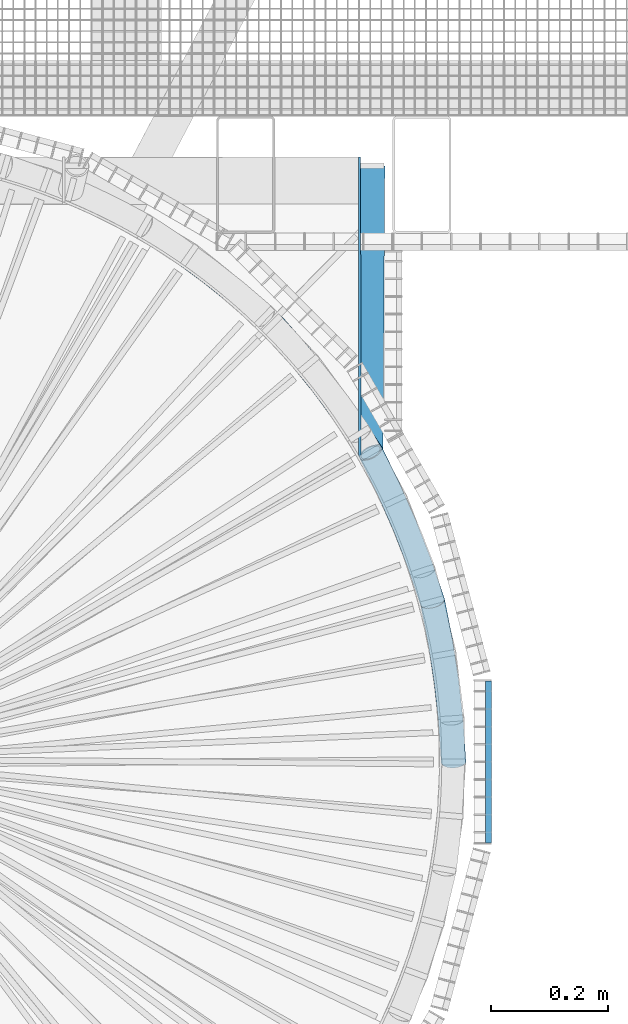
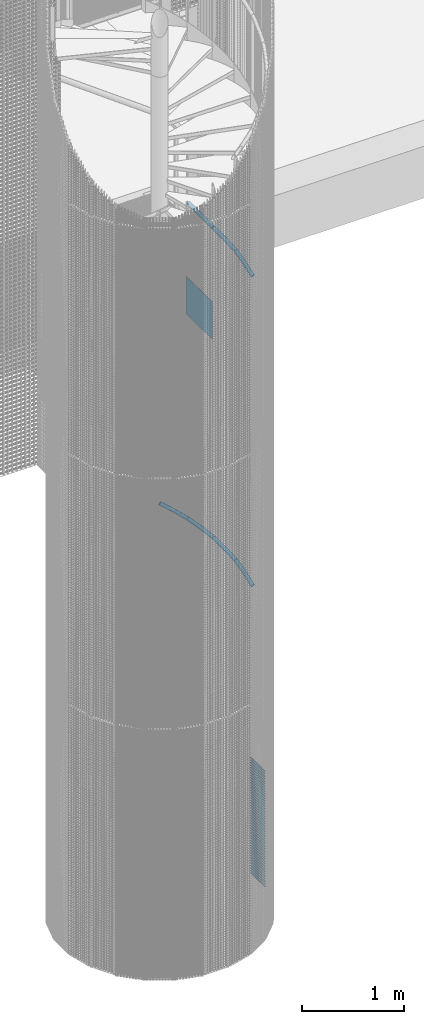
# One storey, part 301 of 1148: 49 beams, 6 members, 8 elements without a shape of their own.
"""IFC2X3 building model written with IfcOpenShell, lengths in millimetres."""

from ifc_helpers import new_model, entity, si_unit, frame, origin_with_axes, origin_2d_with_axis, place, context, subcontext, project, spatial, rectangle, hollow_circle, extrude, material, type_object, element, aggregate, save


model = new_model("IFC2X3")

# Units and contexts
model_context = context("Model", 3, precision=1e-05, world=origin_with_axes())
body_context = subcontext(model_context, "Body", "Model", "MODEL_VIEW")
ifc_project = project(units=[si_unit("LENGTHUNIT", "METRE", prefix="MILLI"), si_unit("AREAUNIT", "SQUARE_METRE"), si_unit("VOLUMEUNIT", "CUBIC_METRE"), si_unit("MASSUNIT", "GRAM", prefix="KILO"), si_unit("TIMEUNIT", "SECOND"), si_unit("PLANEANGLEUNIT", "RADIAN"), si_unit("SOLIDANGLEUNIT", "STERADIAN"), si_unit("THERMODYNAMICTEMPERATUREUNIT", "DEGREE_CELSIUS"), si_unit("LUMINOUSINTENSITYUNIT", "LUMEN")], contexts=[model_context])

# Site, building, storey
site_placement = place(None, origin_with_axes())
site = spatial("IfcSite", under=ifc_project, at=site_placement, Name="Undefined", CompositionType="ELEMENT")
building_placement = place(site_placement, origin_with_axes())
building = spatial("IfcBuilding", under=site, at=building_placement, Name="Undefined", CompositionType="ELEMENT")
storey_placement = place(building_placement, origin_with_axes())
storey = spatial("IfcBuildingStorey", under=building, at=storey_placement, Name="Undefined", CompositionType="ELEMENT", Elevation=0.0)

# Assembly, beams
assembly_1_placement = place(storey_placement, origin_with_axes())
assembly_1 = element("IfcElementAssembly", 1, at=assembly_1_placement, inside=storey, Name="BORDURE", AssemblyPlace="NOTDEFINED", PredefinedType="NOTDEFINED")
ifc_material = material(Name="STEEL/S235JR")
beam_type_1 = type_object("IfcBeamType", Name="PL2*10", PredefinedType="NOTDEFINED")
beam_1_placement = place(assembly_1_placement, frame((1113.47999999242, -137.996003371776, 1410.0), z_axis=(1.0, 0.0, 0.0), x_axis=(0.0, 1.0, 0.0)))
beam_1 = element("IfcBeam", 2, at=beam_1_placement, type_object=beam_type_1, material=ifc_material, Name="ENTRETOISE", context=body_context, shape_type="SweptSolid", body=[
    extrude(rectangle(XDim=2.0, YDim=10.0, at=origin_2d_with_axis()), frame((275.999999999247, 9.09494701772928e-13, 1.53210777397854e-14), z_axis=(-1.0, 0.0, 0.0), x_axis=(0.0, -1.0, 0.0)), (0.0, 0.0, 1.0), 276.0),
])
beam_2_placement = place(assembly_1_placement, frame((1113.47999999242, -137.996003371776, 1380.0), z_axis=(1.0, 0.0, 0.0), x_axis=(0.0, 1.0, 0.0)))
beam_2 = element("IfcBeam", 3, at=beam_2_placement, type_object=beam_type_1, material=ifc_material, Name="ENTRETOISE", context=body_context, shape_type="SweptSolid", body=[
    extrude(rectangle(XDim=2.0, YDim=10.0, at=origin_2d_with_axis()), frame((275.999999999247, 9.09494701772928e-13, 1.53210777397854e-14), z_axis=(-1.0, 0.0, 0.0), x_axis=(0.0, -1.0, 0.0)), (0.0, 0.0, 1.0), 276.0),
])
beam_3_placement = place(assembly_1_placement, frame((1113.47999999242, -137.996003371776, 1350.0), z_axis=(1.0, 0.0, 0.0), x_axis=(0.0, 1.0, 0.0)))
beam_3 = element("IfcBeam", 4, at=beam_3_placement, type_object=beam_type_1, material=ifc_material, Name="ENTRETOISE", context=body_context, shape_type="SweptSolid", body=[
    extrude(rectangle(XDim=2.0, YDim=10.0, at=origin_2d_with_axis()), frame((275.999999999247, 9.09494701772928e-13, 1.53210777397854e-14), z_axis=(-1.0, 0.0, 0.0), x_axis=(0.0, -1.0, 0.0)), (0.0, 0.0, 1.0), 276.0),
])
beam_4_placement = place(assembly_1_placement, frame((1113.47999999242, -137.996003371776, 1320.0), z_axis=(1.0, 0.0, 0.0), x_axis=(0.0, 1.0, 0.0)))
beam_4 = element("IfcBeam", 5, at=beam_4_placement, type_object=beam_type_1, material=ifc_material, Name="ENTRETOISE", context=body_context, shape_type="SweptSolid", body=[
    extrude(rectangle(XDim=2.0, YDim=10.0, at=origin_2d_with_axis()), frame((275.999999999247, 9.09494701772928e-13, 1.53210777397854e-14), z_axis=(-1.0, 0.0, 0.0), x_axis=(0.0, -1.0, 0.0)), (0.0, 0.0, 1.0), 276.0),
])
beam_5_placement = place(assembly_1_placement, frame((1113.47999999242, -137.996003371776, 1290.0), z_axis=(1.0, 0.0, 0.0), x_axis=(0.0, 1.0, 0.0)))
beam_5 = element("IfcBeam", 6, at=beam_5_placement, type_object=beam_type_1, material=ifc_material, Name="ENTRETOISE", context=body_context, shape_type="SweptSolid", body=[
    extrude(rectangle(XDim=2.0, YDim=10.0, at=origin_2d_with_axis()), frame((275.999999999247, 9.09494701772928e-13, 1.53210777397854e-14), z_axis=(-1.0, 0.0, 0.0), x_axis=(0.0, -1.0, 0.0)), (0.0, 0.0, 1.0), 276.0),
])
beam_6_placement = place(assembly_1_placement, frame((1113.47999999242, -137.996003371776, 1260.0), z_axis=(1.0, 0.0, 0.0), x_axis=(0.0, 1.0, 0.0)))
beam_6 = element("IfcBeam", 7, at=beam_6_placement, type_object=beam_type_1, material=ifc_material, Name="ENTRETOISE", context=body_context, shape_type="SweptSolid", body=[
    extrude(rectangle(XDim=2.0, YDim=10.0, at=origin_2d_with_axis()), frame((275.999999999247, 9.09494701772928e-13, 1.53210777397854e-14), z_axis=(-1.0, 0.0, 0.0), x_axis=(0.0, -1.0, 0.0)), (0.0, 0.0, 1.0), 276.0),
])
beam_7_placement = place(assembly_1_placement, frame((1113.47999999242, -137.996003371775, 1230.0), z_axis=(1.0, 0.0, 0.0), x_axis=(0.0, 1.0, 0.0)))
beam_7 = element("IfcBeam", 8, at=beam_7_placement, type_object=beam_type_1, material=ifc_material, Name="ENTRETOISE", context=body_context, shape_type="SweptSolid", body=[
    extrude(rectangle(XDim=2.0, YDim=10.0, at=origin_2d_with_axis()), frame((275.999999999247, 9.09494701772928e-13, 1.53210777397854e-14), z_axis=(-1.0, 0.0, 0.0), x_axis=(0.0, -1.0, 0.0)), (0.0, 0.0, 1.0), 276.0),
])
beam_8_placement = place(assembly_1_placement, frame((1113.47999999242, -137.996003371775, 1200.0), z_axis=(1.0, 0.0, 0.0), x_axis=(0.0, 1.0, 0.0)))
beam_8 = element("IfcBeam", 9, at=beam_8_placement, type_object=beam_type_1, material=ifc_material, Name="ENTRETOISE", context=body_context, shape_type="SweptSolid", body=[
    extrude(rectangle(XDim=2.0, YDim=10.0, at=origin_2d_with_axis()), frame((275.999999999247, 9.09494701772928e-13, 1.53210777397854e-14), z_axis=(-1.0, 0.0, 0.0), x_axis=(0.0, -1.0, 0.0)), (0.0, 0.0, 1.0), 276.0),
])
beam_9_placement = place(assembly_1_placement, frame((1113.47999999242, -137.996003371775, 1170.0), z_axis=(1.0, 0.0, 0.0), x_axis=(0.0, 1.0, 0.0)))
beam_9 = element("IfcBeam", 10, at=beam_9_placement, type_object=beam_type_1, material=ifc_material, Name="ENTRETOISE", context=body_context, shape_type="SweptSolid", body=[
    extrude(rectangle(XDim=2.0, YDim=10.0, at=origin_2d_with_axis()), frame((275.999999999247, 9.09494701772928e-13, 1.53210777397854e-14), z_axis=(-1.0, 0.0, 0.0), x_axis=(0.0, -1.0, 0.0)), (0.0, 0.0, 1.0), 276.0),
])
beam_10_placement = place(assembly_1_placement, frame((1113.47999999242, -137.996003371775, 1140.0), z_axis=(1.0, 0.0, 0.0), x_axis=(0.0, 1.0, 0.0)))
beam_10 = element("IfcBeam", 11, at=beam_10_placement, type_object=beam_type_1, material=ifc_material, Name="ENTRETOISE", context=body_context, shape_type="SweptSolid", body=[
    extrude(rectangle(XDim=2.0, YDim=10.0, at=origin_2d_with_axis()), frame((275.999999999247, 9.09494701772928e-13, 1.53210777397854e-14), z_axis=(-1.0, 0.0, 0.0), x_axis=(0.0, -1.0, 0.0)), (0.0, 0.0, 1.0), 276.0),
])
beam_11_placement = place(assembly_1_placement, frame((1113.47999999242, -137.996003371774, 719.999999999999), z_axis=(1.0, 0.0, 0.0), x_axis=(0.0, 1.0, 0.0)))
beam_11 = element("IfcBeam", 12, at=beam_11_placement, type_object=beam_type_1, material=ifc_material, Name="ENTRETOISE", context=body_context, shape_type="SweptSolid", body=[
    extrude(rectangle(XDim=2.0, YDim=10.0, at=origin_2d_with_axis()), frame((275.999999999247, 9.09494701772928e-13, 1.53210777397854e-14), z_axis=(-1.0, 0.0, 0.0), x_axis=(0.0, -1.0, 0.0)), (0.0, 0.0, 1.0), 276.0),
])
beam_12_placement = place(assembly_1_placement, frame((1113.47999999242, -137.996003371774, 689.999999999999), z_axis=(1.0, 0.0, 0.0), x_axis=(0.0, 1.0, 0.0)))
beam_12 = element("IfcBeam", 13, at=beam_12_placement, type_object=beam_type_1, material=ifc_material, Name="ENTRETOISE", context=body_context, shape_type="SweptSolid", body=[
    extrude(rectangle(XDim=2.0, YDim=10.0, at=origin_2d_with_axis()), frame((275.999999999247, 9.09494701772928e-13, 1.53210777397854e-14), z_axis=(-1.0, 0.0, 0.0), x_axis=(0.0, -1.0, 0.0)), (0.0, 0.0, 1.0), 276.0),
])
beam_13_placement = place(assembly_1_placement, frame((1113.47999999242, -137.996003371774, 749.999999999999), z_axis=(1.0, 0.0, 0.0), x_axis=(0.0, 1.0, 0.0)))
beam_13 = element("IfcBeam", 14, at=beam_13_placement, type_object=beam_type_1, material=ifc_material, Name="ENTRETOISE", context=body_context, shape_type="SweptSolid", body=[
    extrude(rectangle(XDim=2.0, YDim=10.0, at=origin_2d_with_axis()), frame((275.999999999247, 9.09494701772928e-13, 1.53210777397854e-14), z_axis=(-1.0, 0.0, 0.0), x_axis=(0.0, -1.0, 0.0)), (0.0, 0.0, 1.0), 276.0),
])
beam_14_placement = place(assembly_1_placement, frame((1113.47999999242, -137.996003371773, 659.999999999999), z_axis=(1.0, 0.0, 0.0), x_axis=(0.0, 1.0, 0.0)))
beam_14 = element("IfcBeam", 15, at=beam_14_placement, type_object=beam_type_1, material=ifc_material, Name="ENTRETOISE", context=body_context, shape_type="SweptSolid", body=[
    extrude(rectangle(XDim=2.0, YDim=10.0, at=origin_2d_with_axis()), frame((275.999999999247, 9.09494701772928e-13, 1.53210777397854e-14), z_axis=(-1.0, 0.0, 0.0), x_axis=(0.0, -1.0, 0.0)), (0.0, 0.0, 1.0), 276.0),
])
beam_15_placement = place(assembly_1_placement, frame((1113.47999999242, -137.996003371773, 629.999999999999), z_axis=(1.0, 0.0, 0.0), x_axis=(0.0, 1.0, 0.0)))
beam_15 = element("IfcBeam", 16, at=beam_15_placement, type_object=beam_type_1, material=ifc_material, Name="ENTRETOISE", context=body_context, shape_type="SweptSolid", body=[
    extrude(rectangle(XDim=2.0, YDim=10.0, at=origin_2d_with_axis()), frame((275.999999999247, 9.09494701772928e-13, 1.53210777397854e-14), z_axis=(-1.0, 0.0, 0.0), x_axis=(0.0, -1.0, 0.0)), (0.0, 0.0, 1.0), 276.0),
])
beam_16_placement = place(assembly_1_placement, frame((1113.47999999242, -137.996003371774, 779.999999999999), z_axis=(1.0, 0.0, 0.0), x_axis=(0.0, 1.0, 0.0)))
beam_16 = element("IfcBeam", 17, at=beam_16_placement, type_object=beam_type_1, material=ifc_material, Name="ENTRETOISE", context=body_context, shape_type="SweptSolid", body=[
    extrude(rectangle(XDim=2.0, YDim=10.0, at=origin_2d_with_axis()), frame((275.999999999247, 9.09494701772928e-13, 1.53210777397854e-14), z_axis=(-1.0, 0.0, 0.0), x_axis=(0.0, -1.0, 0.0)), (0.0, 0.0, 1.0), 276.0),
])
beam_17_placement = place(assembly_1_placement, frame((1113.47999999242, -137.996003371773, 599.999999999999), z_axis=(1.0, 0.0, 0.0), x_axis=(0.0, 1.0, 0.0)))
beam_17 = element("IfcBeam", 18, at=beam_17_placement, type_object=beam_type_1, material=ifc_material, Name="ENTRETOISE", context=body_context, shape_type="SweptSolid", body=[
    extrude(rectangle(XDim=2.0, YDim=10.0, at=origin_2d_with_axis()), frame((275.999999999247, 9.09494701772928e-13, 1.53210777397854e-14), z_axis=(-1.0, 0.0, 0.0), x_axis=(0.0, -1.0, 0.0)), (0.0, 0.0, 1.0), 276.0),
])
beam_18_placement = place(assembly_1_placement, frame((1113.47999999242, -137.996003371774, 809.999999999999), z_axis=(1.0, 0.0, 0.0), x_axis=(0.0, 1.0, 0.0)))
beam_18 = element("IfcBeam", 19, at=beam_18_placement, type_object=beam_type_1, material=ifc_material, Name="ENTRETOISE", context=body_context, shape_type="SweptSolid", body=[
    extrude(rectangle(XDim=2.0, YDim=10.0, at=origin_2d_with_axis()), frame((275.999999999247, 9.09494701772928e-13, 1.53210777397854e-14), z_axis=(-1.0, 0.0, 0.0), x_axis=(0.0, -1.0, 0.0)), (0.0, 0.0, 1.0), 276.0),
])
beam_19_placement = place(assembly_1_placement, frame((1113.47999999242, -137.996003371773, 569.999999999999), z_axis=(1.0, 0.0, 0.0), x_axis=(0.0, 1.0, 0.0)))
beam_19 = element("IfcBeam", 20, at=beam_19_placement, type_object=beam_type_1, material=ifc_material, Name="ENTRETOISE", context=body_context, shape_type="SweptSolid", body=[
    extrude(rectangle(XDim=2.0, YDim=10.0, at=origin_2d_with_axis()), frame((275.999999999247, 9.09494701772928e-13, 1.53210777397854e-14), z_axis=(-1.0, 0.0, 0.0), x_axis=(0.0, -1.0, 0.0)), (0.0, 0.0, 1.0), 276.0),
])
beam_20_placement = place(assembly_1_placement, frame((1113.47999999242, -137.996003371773, 539.999999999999), z_axis=(1.0, 0.0, 0.0), x_axis=(0.0, 1.0, 0.0)))
beam_20 = element("IfcBeam", 21, at=beam_20_placement, type_object=beam_type_1, material=ifc_material, Name="ENTRETOISE", context=body_context, shape_type="SweptSolid", body=[
    extrude(rectangle(XDim=2.0, YDim=10.0, at=origin_2d_with_axis()), frame((275.999999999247, 9.09494701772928e-13, 1.53210777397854e-14), z_axis=(-1.0, 0.0, 0.0), x_axis=(0.0, -1.0, 0.0)), (0.0, 0.0, 1.0), 276.0),
])
beam_21_placement = place(assembly_1_placement, frame((1113.47999999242, -137.996003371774, 839.999999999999), z_axis=(1.0, 0.0, 0.0), x_axis=(0.0, 1.0, 0.0)))
beam_21 = element("IfcBeam", 22, at=beam_21_placement, type_object=beam_type_1, material=ifc_material, Name="ENTRETOISE", context=body_context, shape_type="SweptSolid", body=[
    extrude(rectangle(XDim=2.0, YDim=10.0, at=origin_2d_with_axis()), frame((275.999999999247, 9.09494701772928e-13, 1.53210777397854e-14), z_axis=(-1.0, 0.0, 0.0), x_axis=(0.0, -1.0, 0.0)), (0.0, 0.0, 1.0), 276.0),
])
beam_22_placement = place(assembly_1_placement, frame((1113.47999999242, -137.996003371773, 509.999999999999), z_axis=(1.0, 0.0, 0.0), x_axis=(0.0, 1.0, 0.0)))
beam_22 = element("IfcBeam", 23, at=beam_22_placement, type_object=beam_type_1, material=ifc_material, Name="ENTRETOISE", context=body_context, shape_type="SweptSolid", body=[
    extrude(rectangle(XDim=2.0, YDim=10.0, at=origin_2d_with_axis()), frame((275.999999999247, 9.09494701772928e-13, 1.53210777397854e-14), z_axis=(-1.0, 0.0, 0.0), x_axis=(0.0, -1.0, 0.0)), (0.0, 0.0, 1.0), 276.0),
])
beam_23_placement = place(assembly_1_placement, frame((1113.47999999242, -137.996003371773, 479.999999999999), z_axis=(1.0, 0.0, 0.0), x_axis=(0.0, 1.0, 0.0)))
beam_23 = element("IfcBeam", 24, at=beam_23_placement, type_object=beam_type_1, material=ifc_material, Name="ENTRETOISE", context=body_context, shape_type="SweptSolid", body=[
    extrude(rectangle(XDim=2.0, YDim=10.0, at=origin_2d_with_axis()), frame((275.999999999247, 9.09494701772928e-13, 1.53210777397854e-14), z_axis=(-1.0, 0.0, 0.0), x_axis=(0.0, -1.0, 0.0)), (0.0, 0.0, 1.0), 276.0),
])
beam_24_placement = place(assembly_1_placement, frame((1113.47999999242, -137.996003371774, 869.999999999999), z_axis=(1.0, 0.0, 0.0), x_axis=(0.0, 1.0, 0.0)))
beam_24 = element("IfcBeam", 25, at=beam_24_placement, type_object=beam_type_1, material=ifc_material, Name="ENTRETOISE", context=body_context, shape_type="SweptSolid", body=[
    extrude(rectangle(XDim=2.0, YDim=10.0, at=origin_2d_with_axis()), frame((275.999999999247, 9.09494701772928e-13, 1.53210777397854e-14), z_axis=(-1.0, 0.0, 0.0), x_axis=(0.0, -1.0, 0.0)), (0.0, 0.0, 1.0), 276.0),
])
beam_25_placement = place(assembly_1_placement, frame((1113.47999999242, -137.996003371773, 449.999999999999), z_axis=(1.0, 0.0, 0.0), x_axis=(0.0, 1.0, 0.0)))
beam_25 = element("IfcBeam", 26, at=beam_25_placement, type_object=beam_type_1, material=ifc_material, Name="ENTRETOISE", context=body_context, shape_type="SweptSolid", body=[
    extrude(rectangle(XDim=2.0, YDim=10.0, at=origin_2d_with_axis()), frame((275.999999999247, 9.09494701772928e-13, 1.53210777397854e-14), z_axis=(-1.0, 0.0, 0.0), x_axis=(0.0, -1.0, 0.0)), (0.0, 0.0, 1.0), 276.0),
])
beam_26_placement = place(assembly_1_placement, frame((1113.47999999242, -137.996003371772, 419.999999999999), z_axis=(1.0, 0.0, 0.0), x_axis=(0.0, 1.0, 0.0)))
beam_26 = element("IfcBeam", 27, at=beam_26_placement, type_object=beam_type_1, material=ifc_material, Name="ENTRETOISE", context=body_context, shape_type="SweptSolid", body=[
    extrude(rectangle(XDim=2.0, YDim=10.0, at=origin_2d_with_axis()), frame((275.999999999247, 9.09494701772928e-13, 1.53210777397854e-14), z_axis=(-1.0, 0.0, 0.0), x_axis=(0.0, -1.0, 0.0)), (0.0, 0.0, 1.0), 276.0),
])
beam_27_placement = place(assembly_1_placement, frame((1113.47999999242, -137.996003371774, 899.999999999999), z_axis=(1.0, 0.0, 0.0), x_axis=(0.0, 1.0, 0.0)))
beam_27 = element("IfcBeam", 28, at=beam_27_placement, type_object=beam_type_1, material=ifc_material, Name="ENTRETOISE", context=body_context, shape_type="SweptSolid", body=[
    extrude(rectangle(XDim=2.0, YDim=10.0, at=origin_2d_with_axis()), frame((275.999999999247, 9.09494701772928e-13, 1.53210777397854e-14), z_axis=(-1.0, 0.0, 0.0), x_axis=(0.0, -1.0, 0.0)), (0.0, 0.0, 1.0), 276.0),
])
beam_28_placement = place(assembly_1_placement, frame((1113.47999999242, -137.996003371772, 389.999999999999), z_axis=(1.0, 0.0, 0.0), x_axis=(0.0, 1.0, 0.0)))
beam_28 = element("IfcBeam", 29, at=beam_28_placement, type_object=beam_type_1, material=ifc_material, Name="ENTRETOISE", context=body_context, shape_type="SweptSolid", body=[
    extrude(rectangle(XDim=2.0, YDim=10.0, at=origin_2d_with_axis()), frame((275.999999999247, 9.09494701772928e-13, 1.53210777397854e-14), z_axis=(-1.0, 0.0, 0.0), x_axis=(0.0, -1.0, 0.0)), (0.0, 0.0, 1.0), 276.0),
])
beam_29_placement = place(assembly_1_placement, frame((1113.47999999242, -137.996003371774, 929.999999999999), z_axis=(1.0, 0.0, 0.0), x_axis=(0.0, 1.0, 0.0)))
beam_29 = element("IfcBeam", 30, at=beam_29_placement, type_object=beam_type_1, material=ifc_material, Name="ENTRETOISE", context=body_context, shape_type="SweptSolid", body=[
    extrude(rectangle(XDim=2.0, YDim=10.0, at=origin_2d_with_axis()), frame((275.999999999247, 9.09494701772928e-13, 1.53210777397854e-14), z_axis=(-1.0, 0.0, 0.0), x_axis=(0.0, -1.0, 0.0)), (0.0, 0.0, 1.0), 276.0),
])
beam_30_placement = place(assembly_1_placement, frame((1113.47999999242, -137.996003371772, 359.999999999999), z_axis=(1.0, 0.0, 0.0), x_axis=(0.0, 1.0, 0.0)))
beam_30 = element("IfcBeam", 31, at=beam_30_placement, type_object=beam_type_1, material=ifc_material, Name="ENTRETOISE", context=body_context, shape_type="SweptSolid", body=[
    extrude(rectangle(XDim=2.0, YDim=10.0, at=origin_2d_with_axis()), frame((275.999999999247, 9.09494701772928e-13, 1.53210777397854e-14), z_axis=(-1.0, 0.0, 0.0), x_axis=(0.0, -1.0, 0.0)), (0.0, 0.0, 1.0), 276.0),
])
beam_31_placement = place(assembly_1_placement, frame((1113.47999999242, -137.996003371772, 329.999999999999), z_axis=(1.0, 0.0, 0.0), x_axis=(0.0, 1.0, 0.0)))
beam_31 = element("IfcBeam", 32, at=beam_31_placement, type_object=beam_type_1, material=ifc_material, Name="ENTRETOISE", context=body_context, shape_type="SweptSolid", body=[
    extrude(rectangle(XDim=2.0, YDim=10.0, at=origin_2d_with_axis()), frame((275.999999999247, 9.09494701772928e-13, 1.53210777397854e-14), z_axis=(-1.0, 0.0, 0.0), x_axis=(0.0, -1.0, 0.0)), (0.0, 0.0, 1.0), 276.0),
])
beam_32_placement = place(assembly_1_placement, frame((1113.47999999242, -137.996003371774, 959.999999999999), z_axis=(1.0, 0.0, 0.0), x_axis=(0.0, 1.0, 0.0)))
beam_32 = element("IfcBeam", 33, at=beam_32_placement, type_object=beam_type_1, material=ifc_material, Name="ENTRETOISE", context=body_context, shape_type="SweptSolid", body=[
    extrude(rectangle(XDim=2.0, YDim=10.0, at=origin_2d_with_axis()), frame((275.999999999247, 9.09494701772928e-13, 1.53210777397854e-14), z_axis=(-1.0, 0.0, 0.0), x_axis=(0.0, -1.0, 0.0)), (0.0, 0.0, 1.0), 276.0),
])
beam_33_placement = place(assembly_1_placement, frame((1113.47999999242, -137.996003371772, 299.999999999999), z_axis=(1.0, 0.0, 0.0), x_axis=(0.0, 1.0, 0.0)))
beam_33 = element("IfcBeam", 34, at=beam_33_placement, type_object=beam_type_1, material=ifc_material, Name="ENTRETOISE", context=body_context, shape_type="SweptSolid", body=[
    extrude(rectangle(XDim=2.0, YDim=10.0, at=origin_2d_with_axis()), frame((275.999999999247, 9.09494701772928e-13, 1.53210777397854e-14), z_axis=(-1.0, 0.0, 0.0), x_axis=(0.0, -1.0, 0.0)), (0.0, 0.0, 1.0), 276.0),
])
beam_34_placement = place(assembly_1_placement, frame((1113.47999999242, -137.996003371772, 269.999999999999), z_axis=(1.0, 0.0, 0.0), x_axis=(0.0, 1.0, 0.0)))
beam_34 = element("IfcBeam", 35, at=beam_34_placement, type_object=beam_type_1, material=ifc_material, Name="ENTRETOISE", context=body_context, shape_type="SweptSolid", body=[
    extrude(rectangle(XDim=2.0, YDim=10.0, at=origin_2d_with_axis()), frame((275.999999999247, 9.09494701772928e-13, 1.53210777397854e-14), z_axis=(-1.0, 0.0, 0.0), x_axis=(0.0, -1.0, 0.0)), (0.0, 0.0, 1.0), 276.0),
])
beam_35_placement = place(assembly_1_placement, frame((1113.47999999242, -137.996003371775, 989.999999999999), z_axis=(1.0, 0.0, 0.0), x_axis=(0.0, 1.0, 0.0)))
beam_35 = element("IfcBeam", 36, at=beam_35_placement, type_object=beam_type_1, material=ifc_material, Name="ENTRETOISE", context=body_context, shape_type="SweptSolid", body=[
    extrude(rectangle(XDim=2.0, YDim=10.0, at=origin_2d_with_axis()), frame((275.999999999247, 9.09494701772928e-13, 1.53210777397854e-14), z_axis=(-1.0, 0.0, 0.0), x_axis=(0.0, -1.0, 0.0)), (0.0, 0.0, 1.0), 276.0),
])
beam_36_placement = place(assembly_1_placement, frame((1113.47999999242, -137.996003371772, 239.999999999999), z_axis=(1.0, 0.0, 0.0), x_axis=(0.0, 1.0, 0.0)))
beam_36 = element("IfcBeam", 37, at=beam_36_placement, type_object=beam_type_1, material=ifc_material, Name="ENTRETOISE", context=body_context, shape_type="SweptSolid", body=[
    extrude(rectangle(XDim=2.0, YDim=10.0, at=origin_2d_with_axis()), frame((275.999999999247, 9.09494701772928e-13, 1.53210777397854e-14), z_axis=(-1.0, 0.0, 0.0), x_axis=(0.0, -1.0, 0.0)), (0.0, 0.0, 1.0), 276.0),
])
beam_37_placement = place(assembly_1_placement, frame((1113.47999999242, -137.996003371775, 1020.0), z_axis=(1.0, 0.0, 0.0), x_axis=(0.0, 1.0, 0.0)))
beam_37 = element("IfcBeam", 38, at=beam_37_placement, type_object=beam_type_1, material=ifc_material, Name="ENTRETOISE", context=body_context, shape_type="SweptSolid", body=[
    extrude(rectangle(XDim=2.0, YDim=10.0, at=origin_2d_with_axis()), frame((275.999999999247, 9.09494701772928e-13, 1.53210777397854e-14), z_axis=(-1.0, 0.0, 0.0), x_axis=(0.0, -1.0, 0.0)), (0.0, 0.0, 1.0), 276.0),
])
beam_38_placement = place(assembly_1_placement, frame((1113.47999999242, -137.996003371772, 209.999999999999), z_axis=(1.0, 0.0, 0.0), x_axis=(0.0, 1.0, 0.0)))
beam_38 = element("IfcBeam", 39, at=beam_38_placement, type_object=beam_type_1, material=ifc_material, Name="ENTRETOISE", context=body_context, shape_type="SweptSolid", body=[
    extrude(rectangle(XDim=2.0, YDim=10.0, at=origin_2d_with_axis()), frame((275.999999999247, 9.09494701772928e-13, 1.53210777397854e-14), z_axis=(-1.0, 0.0, 0.0), x_axis=(0.0, -1.0, 0.0)), (0.0, 0.0, 1.0), 276.0),
])
beam_39_placement = place(assembly_1_placement, frame((1113.47999999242, -137.996003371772, 179.999999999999), z_axis=(1.0, 0.0, 0.0), x_axis=(0.0, 1.0, 0.0)))
beam_39 = element("IfcBeam", 40, at=beam_39_placement, type_object=beam_type_1, material=ifc_material, Name="ENTRETOISE", context=body_context, shape_type="SweptSolid", body=[
    extrude(rectangle(XDim=2.0, YDim=10.0, at=origin_2d_with_axis()), frame((275.999999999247, 9.09494701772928e-13, 1.53210777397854e-14), z_axis=(-1.0, 0.0, 0.0), x_axis=(0.0, -1.0, 0.0)), (0.0, 0.0, 1.0), 276.0),
])
beam_40_placement = place(assembly_1_placement, frame((1113.47999999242, -137.996003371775, 1050.0), z_axis=(1.0, 0.0, 0.0), x_axis=(0.0, 1.0, 0.0)))
beam_40 = element("IfcBeam", 41, at=beam_40_placement, type_object=beam_type_1, material=ifc_material, Name="ENTRETOISE", context=body_context, shape_type="SweptSolid", body=[
    extrude(rectangle(XDim=2.0, YDim=10.0, at=origin_2d_with_axis()), frame((275.999999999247, 9.09494701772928e-13, 1.53210777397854e-14), z_axis=(-1.0, 0.0, 0.0), x_axis=(0.0, -1.0, 0.0)), (0.0, 0.0, 1.0), 276.0),
])
beam_41_placement = place(assembly_1_placement, frame((1113.47999999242, -137.996003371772, 149.999999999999), z_axis=(1.0, 0.0, 0.0), x_axis=(0.0, 1.0, 0.0)))
beam_41 = element("IfcBeam", 42, at=beam_41_placement, type_object=beam_type_1, material=ifc_material, Name="ENTRETOISE", context=body_context, shape_type="SweptSolid", body=[
    extrude(rectangle(XDim=2.0, YDim=10.0, at=origin_2d_with_axis()), frame((275.999999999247, 9.09494701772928e-13, 1.53210777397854e-14), z_axis=(-1.0, 0.0, 0.0), x_axis=(0.0, -1.0, 0.0)), (0.0, 0.0, 1.0), 276.0),
])
beam_42_placement = place(assembly_1_placement, frame((1113.47999999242, -137.996003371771, 119.999999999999), z_axis=(1.0, 0.0, 0.0), x_axis=(0.0, 1.0, 0.0)))
beam_42 = element("IfcBeam", 43, at=beam_42_placement, type_object=beam_type_1, material=ifc_material, Name="ENTRETOISE", context=body_context, shape_type="SweptSolid", body=[
    extrude(rectangle(XDim=2.0, YDim=10.0, at=origin_2d_with_axis()), frame((275.999999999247, 9.09494701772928e-13, 1.53210777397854e-14), z_axis=(-1.0, 0.0, 0.0), x_axis=(0.0, -1.0, 0.0)), (0.0, 0.0, 1.0), 276.0),
])
beam_43_placement = place(assembly_1_placement, frame((1113.47999999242, -137.996003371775, 1080.0), z_axis=(1.0, 0.0, 0.0), x_axis=(0.0, 1.0, 0.0)))
beam_43 = element("IfcBeam", 44, at=beam_43_placement, type_object=beam_type_1, material=ifc_material, Name="ENTRETOISE", context=body_context, shape_type="SweptSolid", body=[
    extrude(rectangle(XDim=2.0, YDim=10.0, at=origin_2d_with_axis()), frame((275.999999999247, 9.09494701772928e-13, 1.53210777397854e-14), z_axis=(-1.0, 0.0, 0.0), x_axis=(0.0, -1.0, 0.0)), (0.0, 0.0, 1.0), 276.0),
])
beam_44_placement = place(assembly_1_placement, frame((1113.47999999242, -137.996003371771, 89.9999999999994), z_axis=(1.0, 0.0, 0.0), x_axis=(0.0, 1.0, 0.0)))
beam_44 = element("IfcBeam", 45, at=beam_44_placement, type_object=beam_type_1, material=ifc_material, Name="ENTRETOISE", context=body_context, shape_type="SweptSolid", body=[
    extrude(rectangle(XDim=2.0, YDim=10.0, at=origin_2d_with_axis()), frame((275.999999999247, 9.09494701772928e-13, 1.53210777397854e-14), z_axis=(-1.0, 0.0, 0.0), x_axis=(0.0, -1.0, 0.0)), (0.0, 0.0, 1.0), 276.0),
])
beam_45_placement = place(assembly_1_placement, frame((1113.47999999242, -137.996003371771, 59.9999999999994), z_axis=(1.0, 0.0, 0.0), x_axis=(0.0, 1.0, 0.0)))
beam_45 = element("IfcBeam", 46, at=beam_45_placement, type_object=beam_type_1, material=ifc_material, Name="ENTRETOISE", context=body_context, shape_type="SweptSolid", body=[
    extrude(rectangle(XDim=2.0, YDim=10.0, at=origin_2d_with_axis()), frame((275.999999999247, 9.09494701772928e-13, 1.53210777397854e-14), z_axis=(-1.0, 0.0, 0.0), x_axis=(0.0, -1.0, 0.0)), (0.0, 0.0, 1.0), 276.0),
])
beam_46_placement = place(assembly_1_placement, frame((1113.47999999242, -137.996003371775, 1110.0), z_axis=(1.0, 0.0, 0.0), x_axis=(0.0, 1.0, 0.0)))
beam_46 = element("IfcBeam", 47, at=beam_46_placement, type_object=beam_type_1, material=ifc_material, Name="ENTRETOISE", context=body_context, shape_type="SweptSolid", body=[
    extrude(rectangle(XDim=2.0, YDim=10.0, at=origin_2d_with_axis()), frame((275.999999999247, 9.09494701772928e-13, 1.53210777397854e-14), z_axis=(-1.0, 0.0, 0.0), x_axis=(0.0, -1.0, 0.0)), (0.0, 0.0, 1.0), 276.0),
])
beam_47_placement = place(assembly_1_placement, frame((1113.47999999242, -137.99600337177, 29.9999999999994), z_axis=(1.0, 0.0, 0.0), x_axis=(0.0, 1.0, 0.0)))
beam_47 = element("IfcBeam", 48, at=beam_47_placement, type_object=beam_type_1, material=ifc_material, Name="ENTRETOISE", context=body_context, shape_type="SweptSolid", body=[
    extrude(rectangle(XDim=2.0, YDim=10.0, at=origin_2d_with_axis()), frame((275.999999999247, 9.09494701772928e-13, 1.53210777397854e-14), z_axis=(-1.0, 0.0, 0.0), x_axis=(0.0, -1.0, 0.0)), (0.0, 0.0, 1.0), 276.0),
])
aggregate(assembly_1, [beam_1, beam_2, beam_3, beam_4, beam_5, beam_6, beam_7, beam_8, beam_9, beam_10, beam_11, beam_12, beam_13, beam_14, beam_15, beam_16, beam_17, beam_18, beam_19, beam_20, beam_21, beam_22, beam_23, beam_24, beam_25, beam_26, beam_27, beam_28, beam_29, beam_30, beam_31, beam_32, beam_33, beam_34, beam_35, beam_36, beam_37, beam_38, beam_39, beam_40, beam_41, beam_42, beam_43, beam_44, beam_45, beam_46, beam_47])

# Assembly, beam
assembly_2_placement = place(storey_placement, origin_with_axes())
assembly_2 = element("IfcElementAssembly", 49, at=assembly_2_placement, inside=storey, AssemblyPlace="NOTDEFINED", PredefinedType="NOTDEFINED")
beam_type_2 = type_object("IfcBeamType", Name="PLT4*450", PredefinedType="NOTDEFINED")
beam_48_placement = place(assembly_2_placement, frame((894.024575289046, 515.010911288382, 6489.84000000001), z_axis=(0.0, 0.0, 1.0), x_axis=(-0.000144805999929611, 0.999999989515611, 0.0)))
beam_48 = element("IfcBeam", 50, at=beam_48_placement, type_object=beam_type_2, material=ifc_material, Name="GARDE_PIED", context=body_context, shape_type="SweptSolid", body=[
    extrude(rectangle(XDim=4.0, YDim=450.0, at=origin_2d_with_axis()), frame((515.005549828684, 3.63797880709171e-12, 0.0), z_axis=(-1.0, 0.0, 0.0), x_axis=(0.0, -1.0, 0.0)), (0.0, 0.0, 1.0), 515.01),
])
aggregate(assembly_2, [beam_48])

# Assembly, beam, member
assembly_3_placement = place(storey_placement, origin_with_axes())
assembly_3 = element("IfcElementAssembly", 51, at=assembly_3_placement, inside=storey, Name="MONTANT", AssemblyPlace="NOTDEFINED", PredefinedType="NOTDEFINED")
beam_type_3 = type_object("IfcBeamType", Name="TUBE-42.4*3.2", PredefinedType="NOTDEFINED")
beam_49_placement = place(assembly_3_placement, frame((912.785820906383, 526.99527353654, 7589.84000000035), z_axis=(0.999979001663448, -0.00648044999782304, 0.0), x_axis=(0.006480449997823, 0.999979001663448, 0.0)))
beam_49 = element("IfcBeam", 52, at=beam_49_placement, type_object=beam_type_3, material=ifc_material, Name="MAIN_COURANTE", context=body_context, shape_type="SweptSolid", body=[
    extrude(hollow_circle(Radius=21.200000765, WallThickness=3.200000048, at=origin_2d_with_axis()), frame((488.384981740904, -9.09494701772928e-13, -4.23606446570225e-16), z_axis=(-1.0, 0.0, 0.0), x_axis=(0.0, -1.0, 0.0)), (0.0, 0.0, 1.0), 488.38),
])
member_type = type_object("IfcMemberType", Name="TUBE-42.4*3.2", PredefinedType="NOTDEFINED")
member_1_placement = place(assembly_3_placement, frame((1018.08582090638, 272.79527353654, 7435.32000000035), z_axis=(0.923879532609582, 0.382683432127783, -1.50203049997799e-10), x_axis=(-0.333667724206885, 0.805545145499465, 0.489655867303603)))
member_1 = element("IfcMember", 53, at=member_1_placement, type_object=member_type, material=ifc_material, Name="MAIN_COURANTE", context=body_context, shape_type="SweptSolid", body=[
    entity("IfcRevolvedAreaSolid", entity("IfcCircleHollowProfileDef", "AREA", None, entity("IfcAxis2Placement2D", entity("IfcCartesianPoint", [0.0, 0.0]), entity("IfcDirection", [1.0, 0.0])), 21.200000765, 3.200000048), entity("IfcAxis2Placement3D", entity("IfcCartesianPoint", [315.568566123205, -9.09494701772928e-13, -1.31255851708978e-15]), entity("IfcDirection", [-0.997194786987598, -4.44488503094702e-18, 0.0748502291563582]), entity("IfcDirection", [0.0, -1.0, 0.0])), entity("IfcAxis1Placement", entity("IfcCartesianPoint", [0.0, -2108.0, 0.0]), entity("IfcDirection", [1.0, 0.0, 0.0])), 0.149840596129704),
])
aggregate(assembly_3, [beam_49, member_1])

# Assembly, member
assembly_4_placement = place(storey_placement, origin_with_axes())
assembly_4 = element("IfcElementAssembly", 54, at=assembly_4_placement, inside=storey, Name="MONTANT", AssemblyPlace="NOTDEFINED", PredefinedType="NOTDEFINED")
member_2_placement = place(assembly_4_placement, frame((1054.00000001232, -3.31567662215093e-10, 7280.80000000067), z_axis=(0.991444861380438, 0.130526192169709, -6.66041160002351e-11), x_axis=(-0.113807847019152, 0.864456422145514, 0.489655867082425)))
member_2 = element("IfcMember", 55, at=member_2_placement, type_object=member_type, material=ifc_material, Name="MAIN_COURANTE", context=body_context, shape_type="SweptSolid", body=[
    entity("IfcRevolvedAreaSolid", entity("IfcCircleHollowProfileDef", "AREA", None, entity("IfcAxis2Placement2D", entity("IfcCartesianPoint", [0.0, 0.0]), entity("IfcDirection", [1.0, 0.0])), 21.200000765, 3.200000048), entity("IfcAxis2Placement3D", entity("IfcCartesianPoint", [315.568566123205, -9.09494701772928e-13, -1.31255851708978e-15]), entity("IfcDirection", [-0.997194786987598, -4.44488503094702e-18, 0.0748502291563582]), entity("IfcDirection", [0.0, -1.0, 0.0])), entity("IfcAxis1Placement", entity("IfcCartesianPoint", [0.0, -2108.0, 0.0]), entity("IfcDirection", [1.0, 0.0, 0.0])), 0.149840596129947),
])
aggregate(assembly_4, [member_2])

assembly_5_placement = place(storey_placement, origin_with_axes())
assembly_5 = element("IfcElementAssembly", 56, at=assembly_5_placement, inside=storey, Name="MONTANT", AssemblyPlace="NOTDEFINED", PredefinedType="NOTDEFINED")
member_3_placement = place(assembly_5_placement, frame((745.290547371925, 745.290547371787, 4035.88000000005), z_axis=(0.608761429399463, 0.793353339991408, 1.80913957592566e-10), x_axis=(-0.691737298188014, 0.53078869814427, 0.48965586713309)))
member_3 = element("IfcMember", 57, at=member_3_placement, type_object=member_type, material=ifc_material, Name="MAIN_COURANTE", context=body_context, shape_type="SweptSolid", body=[
    entity("IfcRevolvedAreaSolid", entity("IfcCircleHollowProfileDef", "AREA", None, entity("IfcAxis2Placement2D", entity("IfcCartesianPoint", [0.0, 0.0]), entity("IfcDirection", [1.0, 0.0])), 21.200000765, 3.200000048), entity("IfcAxis2Placement3D", entity("IfcCartesianPoint", [315.568566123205, -9.09494701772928e-13, -1.31255851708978e-15]), entity("IfcDirection", [-0.997194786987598, -4.44488503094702e-18, 0.0748502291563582]), entity("IfcDirection", [0.0, -1.0, 0.0])), entity("IfcAxis1Placement", entity("IfcCartesianPoint", [0.0, -2108.0, 0.0]), entity("IfcDirection", [1.0, 0.0, 0.0])), 0.14984059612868),
])
aggregate(assembly_5, [member_3])

assembly_6_placement = place(storey_placement, origin_with_axes())
assembly_6 = element("IfcElementAssembly", 58, at=assembly_6_placement, inside=storey, Name="MONTANT", AssemblyPlace="NOTDEFINED", PredefinedType="NOTDEFINED")
member_4_placement = place(assembly_6_placement, frame((912.790775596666, 527.000000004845, 3881.35999999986), z_axis=(0.793353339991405, 0.608761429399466, -1.80914867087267e-10), x_axis=(-0.530788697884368, 0.691737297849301, 0.489655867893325)))
member_4 = element("IfcMember", 59, at=member_4_placement, type_object=member_type, material=ifc_material, Name="MAIN_COURANTE", context=body_context, shape_type="SweptSolid", body=[
    entity("IfcRevolvedAreaSolid", entity("IfcCircleHollowProfileDef", "AREA", None, entity("IfcAxis2Placement2D", entity("IfcCartesianPoint", [0.0, 0.0]), entity("IfcDirection", [1.0, 0.0])), 21.200000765, 3.200000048), entity("IfcAxis2Placement3D", entity("IfcCartesianPoint", [315.568566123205, -9.09494701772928e-13, -1.31255851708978e-15]), entity("IfcDirection", [-0.997194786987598, -4.44488503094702e-18, 0.0748502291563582]), entity("IfcDirection", [0.0, -1.0, 0.0])), entity("IfcAxis1Placement", entity("IfcCartesianPoint", [0.0, -2108.0, 0.0]), entity("IfcDirection", [1.0, 0.0, 0.0])), 0.149840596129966),
])
aggregate(assembly_6, [member_4])

assembly_7_placement = place(storey_placement, origin_with_axes())
assembly_7 = element("IfcElementAssembly", 60, at=assembly_7_placement, inside=storey, Name="MONTANT", AssemblyPlace="NOTDEFINED", PredefinedType="NOTDEFINED")
member_5_placement = place(assembly_7_placement, frame((1018.08582090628, 272.795273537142, 3726.84000000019), z_axis=(0.923879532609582, 0.382683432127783, -1.50203049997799e-10), x_axis=(-0.333667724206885, 0.805545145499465, 0.489655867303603)))
member_5 = element("IfcMember", 61, at=member_5_placement, type_object=member_type, material=ifc_material, Name="MAIN_COURANTE", context=body_context, shape_type="SweptSolid", body=[
    entity("IfcRevolvedAreaSolid", entity("IfcCircleHollowProfileDef", "AREA", None, entity("IfcAxis2Placement2D", entity("IfcCartesianPoint", [0.0, 0.0]), entity("IfcDirection", [1.0, 0.0])), 21.200000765, 3.200000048), entity("IfcAxis2Placement3D", entity("IfcCartesianPoint", [315.568566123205, -9.09494701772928e-13, -1.31255851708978e-15]), entity("IfcDirection", [-0.997194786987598, -4.44488503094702e-18, 0.0748502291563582]), entity("IfcDirection", [0.0, -1.0, 0.0])), entity("IfcAxis1Placement", entity("IfcCartesianPoint", [0.0, -2108.0, 0.0]), entity("IfcDirection", [1.0, 0.0, 0.0])), 0.149840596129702),
])
aggregate(assembly_7, [member_5])

assembly_8_placement = place(storey_placement, origin_with_axes())
assembly_8 = element("IfcElementAssembly", 62, at=assembly_8_placement, inside=storey, Name="MONTANT", AssemblyPlace="NOTDEFINED", PredefinedType="NOTDEFINED")
member_6_placement = place(assembly_8_placement, frame((1054.0000000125, -1.78374648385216e-10, 3572.32000000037), z_axis=(0.991444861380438, 0.130526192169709, -6.66041160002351e-11), x_axis=(-0.113807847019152, 0.864456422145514, 0.489655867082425)))
member_6 = element("IfcMember", 63, at=member_6_placement, type_object=member_type, material=ifc_material, Name="MAIN_COURANTE", context=body_context, shape_type="SweptSolid", body=[
    entity("IfcRevolvedAreaSolid", entity("IfcCircleHollowProfileDef", "AREA", None, entity("IfcAxis2Placement2D", entity("IfcCartesianPoint", [0.0, 0.0]), entity("IfcDirection", [1.0, 0.0])), 21.200000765, 3.200000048), entity("IfcAxis2Placement3D", entity("IfcCartesianPoint", [315.568566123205, -9.09494701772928e-13, -1.31255851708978e-15]), entity("IfcDirection", [-0.997194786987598, -4.44488503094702e-18, 0.0748502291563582]), entity("IfcDirection", [0.0, -1.0, 0.0])), entity("IfcAxis1Placement", entity("IfcCartesianPoint", [0.0, -2108.0, 0.0]), entity("IfcDirection", [1.0, 0.0, 0.0])), 0.149840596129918),
])
aggregate(assembly_8, [member_6])

save(model, "model.ifc")
